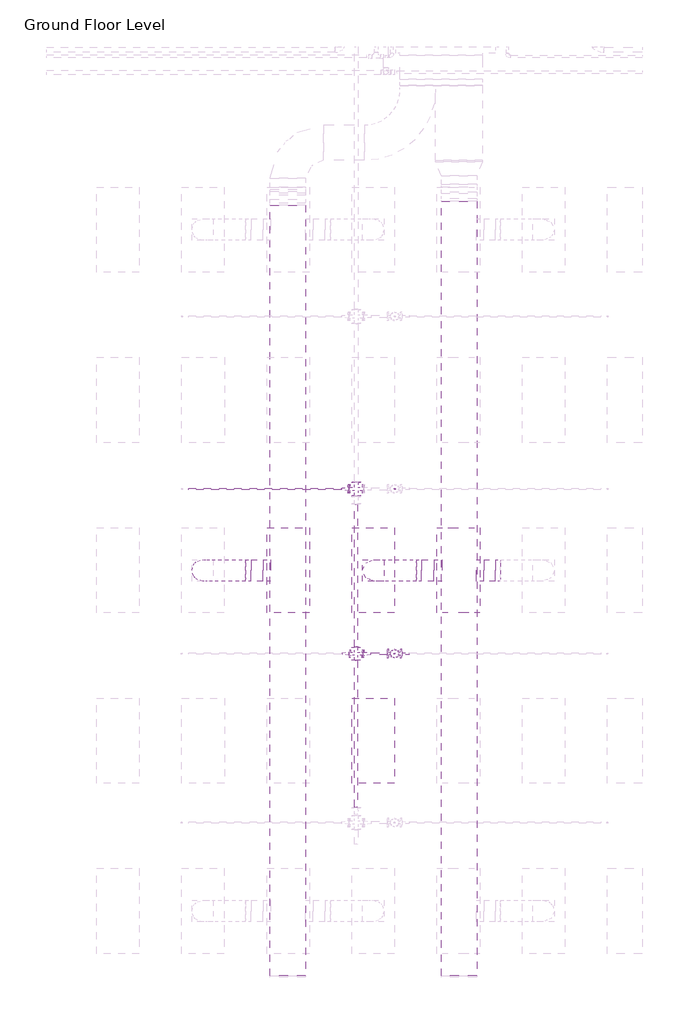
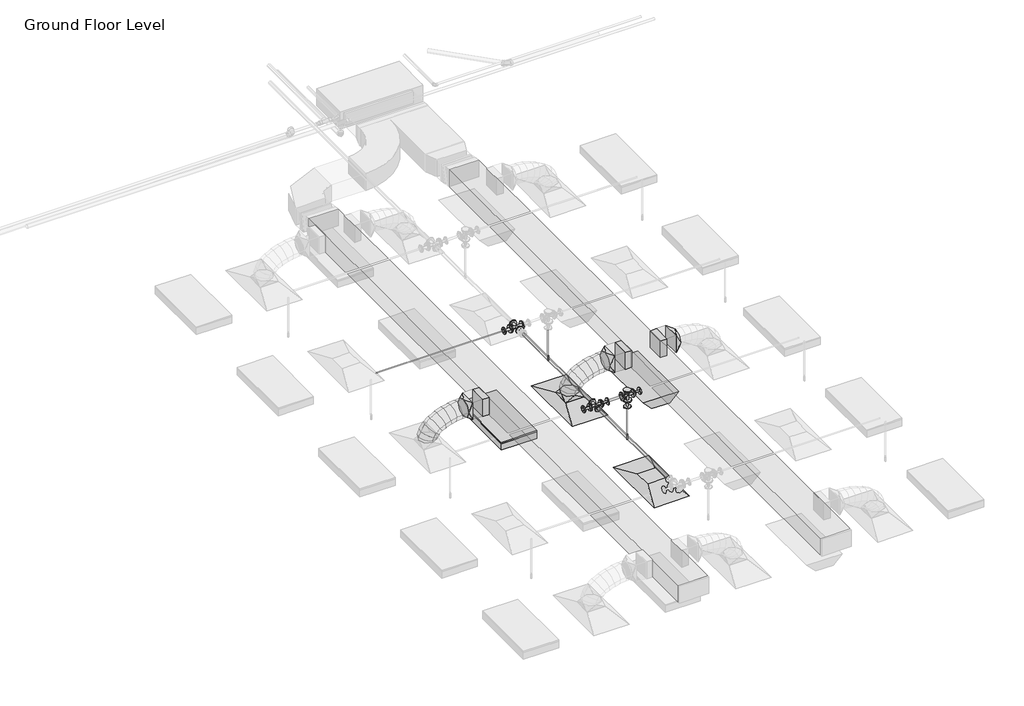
# One storey, part 45 of 68: 8 pipe fittings, 7 duct fittings, 7 duct segments, 6 pipe segments, 2 air terminals, 2 fire suppression terminals, 2 light fixtures.
"""IFC4 building model written with IfcOpenShell, lengths in millimetres."""

from ifc_helpers import new_model, si_unit, point, frame, frame_2d, origin, place, context, project, spatial, polyline, circle_curve, ellipse_curve, trimmed, segment, composite_curve, outline, extrude, transform, mapped, element, save
from ifc_brep_helpers import plane_surface, cylinder_surface, advanced_brep
from components import m_return_diffuser_1200x600_1200_x_600_face_300_x_300_d1983ef6, m_rectangular_takeoff_standard_cb0ccb98, m_rectangular_takeoff_standard_2be5eba1, m_rectangular_to_round_transition_angle_45_degree_641efff0, m_sprinkler_dry_pendent_hosted_15_mm_dry_pendent_9bda8e11, m_emergency_recessed_lighting_fixture_600x1200_277_5b10b25d, m_troffer_light_parabolic_rectangular1_0600x1200mm_4_lamp_86473d4a, m_cross_flanged_cs_class_150_standard_fc817054, m_cross_flanged_cs_class_150_standard_46ec961b, m_reducer_flanged_cs_class_150_standard_b6b67c23, m_reducer_flanged_cs_class_150_standard_ccf252ad, m_reducer_flanged_cs_class_150_standard_d42b2106, m_reducer_flanged_cs_class_150_standard_cc2a7c1d, m_reducer_flanged_cs_class_150_standard_83138b42, m_tee_round_base_flanged_cs_class_150_standard_7e5987a1

model = new_model("IFC4")

# Units and contexts
model_context = context("Model", 3, world=origin())
ifc_project = project(units=[si_unit("LENGTHUNIT", "METRE", prefix="MILLI")], contexts=[model_context])

# Site, building, storey
site = spatial("IfcSite", under=ifc_project)
building = spatial("IfcBuilding", under=site)
storey = spatial("IfcBuildingStorey", under=building, Name="Ground Floor Level", Elevation=900.0)

# Air terminals
placement = place(None, origin())
m_return_diffuser_1200x600_1200_x_600_face_300_x_300_shape = m_return_diffuser_1200x600_1200_x_600_face_300_x_300_d1983ef6(model_context)
element("IfcAirTerminal", 1, ObjectType="M_Return Diffuser 1200x600 : 1200 x 600 Face 300 x 300 Connection", at=placement, inside=storey, context=model_context, shape_type="MappedRepresentation", body=[
    mapped(m_return_diffuser_1200x600_1200_x_600_face_300_x_300_shape, transform((-5737.2327605, 4035.2153534, 3650.0), x_axis=(0.0, 1.0, 0.0), y_axis=(-1.0, 0.0, 0.0), z_axis=(0.0, 0.0, 1.0))),
])
element("IfcAirTerminal", 2, ObjectType="M_Supply Diffuser 1200x600 : 1200 x 600 Face 300 x 300 Connection", at=placement, inside=storey, context=model_context, shape_type="MappedRepresentation", body=[
    mapped(m_return_diffuser_1200x600_1200_x_600_face_300_x_300_shape, transform((-5737.2327605, 6435.2153534, 3650.0), x_axis=(0.0, 1.0, 0.0), y_axis=(-1.0, 0.0, 0.0), z_axis=(0.0, 0.0, 1.0))),
])

# Duct fittings
m_rectangular_takeoff_standard_shape = m_rectangular_takeoff_standard_cb0ccb98(model_context)
element("IfcDuctFitting", 3, ObjectType="M_Rectangular Takeoff : Standard", at=placement, inside=storey, context=model_context, shape_type="MappedRepresentation", body=[
    mapped(m_rectangular_takeoff_standard_shape, transform((-4278.6910789, 6435.2153534, 4150.0), x_axis=(1.0, 0.0, 0.0), y_axis=(0.0, -1.0, 0.0), z_axis=(0.0, 0.0, -1.0))),
])
m_rectangular_takeoff_standard_2_shape = m_rectangular_takeoff_standard_2be5eba1(model_context)
element("IfcDuctFitting", 4, ObjectType="M_Rectangular Takeoff : Standard", at=placement, inside=storey, context=model_context, shape_type="MappedRepresentation", body=[
    mapped(m_rectangular_takeoff_standard_2_shape, transform((-7189.6910789, 6435.2153534, 4150.0), x_axis=(-1.0, 0.0, 0.0), y_axis=(0.0, 1.0, 0.0), z_axis=(0.0, 0.0, -1.0))),
])
element("IfcDuctFitting", 5, ObjectType="M_Rectangular Takeoff : Standard", at=placement, inside=storey, context=model_context, shape_type="MappedRepresentation", body=[
    mapped(m_rectangular_takeoff_standard_2_shape, transform((-4778.6910789, 6435.2153534, 4150.0), x_axis=(-1.0, 0.0, 0.0), y_axis=(0.0, 1.0, 0.0), z_axis=(0.0, 0.0, -1.0))),
])
m_rectangular_to_round_transition_angle_45_degree_shape = m_rectangular_to_round_transition_angle_45_degree_641efff0(model_context)
element("IfcDuctFitting", 6, ObjectType="M_Rectangular to Round Transition - Angle : 45 Degree", at=placement, inside=storey, context=model_context, shape_type="MappedRepresentation", body=[
    mapped(m_rectangular_to_round_transition_angle_45_degree_shape, transform((-4018.6539738, 6435.2153534, 4150.0), x_axis=(1.0, 0.0, 0.0), y_axis=(0.0, 1.0, 0.0), z_axis=(0.0, 0.0, 1.0))),
])
element("IfcDuctFitting", 7, ObjectType="M_Rectangular to Round Transition - Angle : 45 Degree", at=placement, inside=storey, context=model_context, shape_type="MappedRepresentation", body=[
    mapped(m_rectangular_to_round_transition_angle_45_degree_shape, transform((-5737.2327605, 6435.2153534, 3751.6), x_axis=(0.0, 0.0, 1.0), y_axis=(-1.0, 0.0, 0.0), z_axis=(0.0, -1.0, 0.0))),
])
element("IfcDuctFitting", 8, ObjectType="M_Rectangular to Round Transition - Angle : 45 Degree", at=placement, inside=storey, context=model_context, shape_type="MappedRepresentation", body=[
    mapped(m_rectangular_to_round_transition_angle_45_degree_shape, transform((-5055.8115473, 6435.2153534, 4150.0), x_axis=(-1.0, 0.0, 0.0), y_axis=(0.0, -1.0, 0.0), z_axis=(0.0, 0.0, 1.0))),
])
element("IfcDuctFitting", 9, ObjectType="M_Rectangular to Round Transition - Angle : 45 Degree", at=placement, inside=storey, context=model_context, shape_type="MappedRepresentation", body=[
    mapped(m_rectangular_to_round_transition_angle_45_degree_shape, transform((-7461.2487616, 6435.2153534, 4150.0), x_axis=(-1.0, 0.0, 0.0), y_axis=(0.0, -1.0, 0.0), z_axis=(0.0, 0.0, 1.0))),
])

# Duct segments
element("IfcDuctSegment", 10, ObjectType="Flex - Round", at=placement, inside=storey, context=model_context, shape_type="AdvancedBrep", body=[
    advanced_brep(
    [(-5587.2327605, 6435.2153534, 3826.6), (-5737.2327605, 6285.2153534, 3826.6), (-5887.2327605, 6435.2153534, 3826.6), (-5737.2327605, 6585.2153534, 3826.6), (-5587.2327605, 6435.2153534, 3832.4836764), (-5737.2327605, 6285.2153534, 3857.3046173), (-5887.2327605, 6435.2153534, 3882.1255581), (-5737.2327605, 6585.2153534, 3857.3046173), (-5585.103404, 6435.2153534, 3838.7416543), (-5720.5718108, 6285.2153534, 3906.2695763), (-5856.0402176, 6435.2153534, 3973.7974983), (-5720.5718108, 6585.2153534, 3906.2695763), (-5563.0819031, 6435.2153534, 3871.1466478), (-5674.6950292, 6285.2153534, 3973.7779999), (-5786.3081553, 6435.2153534, 4076.409352), (-5674.6950292, 6585.2153534, 3973.7779999), (-5523.1404393, 6435.2153534, 3903.4907359), (-5605.7615172, 6285.2153534, 4029.599479), (-5688.382595, 6435.2153534, 4155.7082221), (-5605.7615172, 6585.2153534, 4029.599479), (-5460.2203199, 6435.2153534, 3936.1920073), (-5519.930376, 6285.2153534, 4074.2082221), (-5579.6404321, 6435.2153534, 4212.2244369), (-5519.930376, 6585.2153534, 4074.2082221), (-5381.3704755, 6435.2153534, 3963.847287), (-5423.360707, 6285.2153534, 4108.0784374), (-5465.3509386, 6435.2153534, 4252.3095878), (-5423.360707, 6585.2153534, 4108.0784374), (-5294.8012537, 6435.2153534, 3984.0505724), (-5322.2116117, 6285.2153534, 4131.6843333), (-5349.6219697, 6435.2153534, 4279.3180942), (-5322.2116117, 6585.2153534, 4131.6843333), (-5208.3198115, 6435.2153534, 3996.0503308), (-5222.6421913, 6285.2153534, 4145.500118), (-5236.9645711, 6435.2153534, 4294.9499053), (-5222.6421913, 6585.2153534, 4145.500118), (-5134.1613712, 6435.2153534, 4000.0), (-5138.1530331, 6285.2153534, 4150.0), (-5142.144695, 6435.2153534, 4300.0), (-5138.1530331, 6585.2153534, 4150.0), (-5130.8115473, 6435.2153534, 4000.0), (-5130.8115473, 6585.2153534, 4150.0), (-5130.8115473, 6435.2153534, 4300.0), (-5130.8115473, 6285.2153534, 4150.0)],
    [
        (0, 1, circle_curve(frame((-5737.2327605, 6435.2153534, 3826.6), z_axis=(0.0, 0.0, -1.0), x_axis=(1.0, 0.0, 0.0)), 150.0)),
        (1, 2, circle_curve(frame((-5737.2327605, 6435.2153534, 3826.6), z_axis=(0.0, 0.0, -1.0), x_axis=(1.0, 0.0, 0.0)), 150.0)),
        (2, 3, circle_curve(frame((-5737.2327605, 6435.2153534, 3826.6), z_axis=(0.0, 0.0, -1.0), x_axis=(1.0, 0.0, 0.0)), 150.0)),
        (3, 0, circle_curve(frame((-5737.2327605, 6435.2153534, 3826.6), z_axis=(0.0, 0.0, -1.0), x_axis=(1.0, 0.0, 0.0)), 150.0)),
        (0, 4),
        (4, 5, ellipse_curve(frame((-5737.2327605, 6435.2153534, 3857.3046173), z_axis=(-0.16325299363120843, 0.0, -0.9865842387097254), x_axis=(0.9865842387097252, 0.0, -0.16325299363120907)), 152.0397287, 150.0)),
        (5, 1),
        (5, 6, ellipse_curve(frame((-5737.2327605, 6435.2153534, 3857.3046173), z_axis=(-0.16325299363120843, 0.0, -0.9865842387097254), x_axis=(0.9865842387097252, 0.0, -0.16325299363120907)), 152.0397287, 150.0)),
        (6, 2),
        (6, 7, ellipse_curve(frame((-5737.2327605, 6435.2153534, 3857.3046173), z_axis=(-0.16325299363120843, 0.0, -0.9865842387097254), x_axis=(0.9865842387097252, 0.0, -0.16325299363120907)), 152.0397287, 150.0)),
        (7, 3),
        (7, 4, ellipse_curve(frame((-5737.2327605, 6435.2153534, 3857.3046173), z_axis=(-0.16325299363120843, 0.0, -0.9865842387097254), x_axis=(0.9865842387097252, 0.0, -0.16325299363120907)), 152.0397287, 150.0)),
        (4, 8),
        (8, 9, ellipse_curve(frame((-5720.5718108, 6435.2153534, 3906.2695763), z_axis=(-0.4461230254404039, 0.0, -0.894971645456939), x_axis=(0.8949716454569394, 0.0, -0.44612302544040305)), 151.3661438, 150.0)),
        (9, 5),
        (9, 10, ellipse_curve(frame((-5720.5718108, 6435.2153534, 3906.2695763), z_axis=(-0.4461230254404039, 0.0, -0.894971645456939), x_axis=(0.8949716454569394, 0.0, -0.44612302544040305)), 151.3661438, 150.0)),
        (10, 6),
        (10, 11, ellipse_curve(frame((-5720.5718108, 6435.2153534, 3906.2695763), z_axis=(-0.4461230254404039, 0.0, -0.894971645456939), x_axis=(0.8949716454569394, 0.0, -0.44612302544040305)), 151.3661438, 150.0)),
        (11, 7),
        (11, 8, ellipse_curve(frame((-5720.5718108, 6435.2153534, 3906.2695763), z_axis=(-0.4461230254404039, 0.0, -0.894971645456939), x_axis=(0.8949716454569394, 0.0, -0.44612302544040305)), 151.3661438, 150.0)),
        (8, 12),
        (12, 13, ellipse_curve(frame((-5674.6950292, 6435.2153534, 3973.7779999), z_axis=(-0.6768681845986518, 0.0, -0.7361042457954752), x_axis=(0.7361042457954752, 0.0, -0.6768681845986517)), 151.626793, 150.0)),
        (13, 9),
        (13, 14, ellipse_curve(frame((-5674.6950292, 6435.2153534, 3973.7779999), z_axis=(-0.6768681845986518, 0.0, -0.7361042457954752), x_axis=(0.7361042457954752, 0.0, -0.6768681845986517)), 151.626793, 150.0)),
        (14, 10),
        (14, 15, ellipse_curve(frame((-5674.6950292, 6435.2153534, 3973.7779999), z_axis=(-0.6768681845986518, 0.0, -0.7361042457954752), x_axis=(0.7361042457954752, 0.0, -0.6768681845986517)), 151.626793, 150.0)),
        (15, 11),
        (15, 12, ellipse_curve(frame((-5674.6950292, 6435.2153534, 3973.7779999), z_axis=(-0.6768681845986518, 0.0, -0.7361042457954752), x_axis=(0.7361042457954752, 0.0, -0.6768681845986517)), 151.626793, 150.0)),
        (12, 16),
        (16, 17, ellipse_curve(frame((-5605.7615172, 6435.2153534, 4029.599479), z_axis=(-0.8364668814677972, 0.0, -0.5480174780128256), x_axis=(0.5480174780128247, 0.0, -0.8364668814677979)), 150.7635818, 150.0)),
        (17, 13),
        (17, 18, ellipse_curve(frame((-5605.7615172, 6435.2153534, 4029.599479), z_axis=(-0.8364668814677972, 0.0, -0.5480174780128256), x_axis=(0.5480174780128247, 0.0, -0.8364668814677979)), 150.7635818, 150.0)),
        (18, 14),
        (18, 19, ellipse_curve(frame((-5605.7615172, 6435.2153534, 4029.599479), z_axis=(-0.8364668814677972, 0.0, -0.5480174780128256), x_axis=(0.5480174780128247, 0.0, -0.8364668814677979)), 150.7635818, 150.0)),
        (19, 15),
        (19, 16, ellipse_curve(frame((-5605.7615172, 6435.2153534, 4029.599479), z_axis=(-0.8364668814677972, 0.0, -0.5480174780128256), x_axis=(0.5480174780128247, 0.0, -0.8364668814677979)), 150.7635818, 150.0)),
        (16, 20),
        (20, 21, ellipse_curve(frame((-5519.930376, 6435.2153534, 4074.2082221), z_axis=(-0.917790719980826, 0.0, -0.3970644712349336), x_axis=(0.3970644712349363, 0.0, -0.9177907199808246)), 150.378743, 150.0)),
        (21, 17),
        (21, 22, ellipse_curve(frame((-5519.930376, 6435.2153534, 4074.2082221), z_axis=(-0.917790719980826, 0.0, -0.3970644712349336), x_axis=(0.3970644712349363, 0.0, -0.9177907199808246)), 150.378743, 150.0)),
        (22, 18),
        (22, 23, ellipse_curve(frame((-5519.930376, 6435.2153534, 4074.2082221), z_axis=(-0.917790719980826, 0.0, -0.3970644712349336), x_axis=(0.3970644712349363, 0.0, -0.9177907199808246)), 150.378743, 150.0)),
        (23, 19),
        (23, 20, ellipse_curve(frame((-5519.930376, 6435.2153534, 4074.2082221), z_axis=(-0.917790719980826, 0.0, -0.3970644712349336), x_axis=(0.3970644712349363, 0.0, -0.9177907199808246)), 150.378743, 150.0)),
        (20, 24),
        (24, 25, ellipse_curve(frame((-5423.360707, 6435.2153534, 4108.0784374), z_axis=(-0.9601380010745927, 0.0, -0.2795264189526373), x_axis=(0.279526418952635, 0.0, -0.9601380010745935)), 150.2191875, 150.0)),
        (25, 21),
        (25, 26, ellipse_curve(frame((-5423.360707, 6435.2153534, 4108.0784374), z_axis=(-0.9601380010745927, 0.0, -0.2795264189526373), x_axis=(0.279526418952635, 0.0, -0.9601380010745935)), 150.2191875, 150.0)),
        (26, 22),
        (26, 27, ellipse_curve(frame((-5423.360707, 6435.2153534, 4108.0784374), z_axis=(-0.9601380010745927, 0.0, -0.2795264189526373), x_axis=(0.279526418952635, 0.0, -0.9601380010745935)), 150.2191875, 150.0)),
        (27, 23),
        (27, 24, ellipse_curve(frame((-5423.360707, 6435.2153534, 4108.0784374), z_axis=(-0.9601380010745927, 0.0, -0.2795264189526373), x_axis=(0.279526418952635, 0.0, -0.9601380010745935)), 150.2191875, 150.0)),
        (24, 28),
        (28, 29, ellipse_curve(frame((-5322.2116117, 6435.2153534, 4131.6843333), z_axis=(-0.9831975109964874, 0.0, -0.1825449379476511), x_axis=(0.1825449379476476, 0.0, -0.9831975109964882)), 150.1567684, 150.0)),
        (29, 25),
        (29, 30, ellipse_curve(frame((-5322.2116117, 6435.2153534, 4131.6843333), z_axis=(-0.9831975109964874, 0.0, -0.1825449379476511), x_axis=(0.1825449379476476, 0.0, -0.9831975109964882)), 150.1567684, 150.0)),
        (30, 26),
        (30, 31, ellipse_curve(frame((-5322.2116117, 6435.2153534, 4131.6843333), z_axis=(-0.9831975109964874, 0.0, -0.1825449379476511), x_axis=(0.1825449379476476, 0.0, -0.9831975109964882)), 150.1567684, 150.0)),
        (31, 27),
        (31, 28, ellipse_curve(frame((-5322.2116117, 6435.2153534, 4131.6843333), z_axis=(-0.9831975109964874, 0.0, -0.1825449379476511), x_axis=(0.1825449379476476, 0.0, -0.9831975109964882)), 150.1567684, 150.0)),
        (28, 32),
        (32, 33, ellipse_curve(frame((-5222.6421913, 6435.2153534, 4145.500118), z_axis=(-0.99543930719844, 0.0, -0.09539698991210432), x_axis=(0.09539698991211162, 0.0, -0.9954393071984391)), 150.1345046, 150.0)),
        (33, 29),
        (33, 34, ellipse_curve(frame((-5222.6421913, 6435.2153534, 4145.500118), z_axis=(-0.99543930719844, 0.0, -0.09539698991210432), x_axis=(0.09539698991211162, 0.0, -0.9954393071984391)), 150.1345046, 150.0)),
        (34, 30),
        (34, 35, ellipse_curve(frame((-5222.6421913, 6435.2153534, 4145.500118), z_axis=(-0.99543930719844, 0.0, -0.09539698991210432), x_axis=(0.09539698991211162, 0.0, -0.9954393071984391)), 150.1345046, 150.0)),
        (35, 31),
        (35, 32, ellipse_curve(frame((-5222.6421913, 6435.2153534, 4145.500118), z_axis=(-0.99543930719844, 0.0, -0.09539698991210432), x_axis=(0.09539698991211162, 0.0, -0.9954393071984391)), 150.1345046, 150.0)),
        (32, 36),
        (36, 37, ellipse_curve(frame((-5138.1530331, 6435.2153534, 4150.0), z_axis=(-0.9996461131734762, 0.0, -0.026601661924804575), x_axis=(0.026601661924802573, 0.0, -0.9996461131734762)), 150.0531018, 150.0)),
        (37, 33),
        (37, 38, ellipse_curve(frame((-5138.1530331, 6435.2153534, 4150.0), z_axis=(-0.9996461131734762, 0.0, -0.026601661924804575), x_axis=(0.026601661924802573, 0.0, -0.9996461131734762)), 150.0531018, 150.0)),
        (38, 34),
        (38, 39, ellipse_curve(frame((-5138.1530331, 6435.2153534, 4150.0), z_axis=(-0.9996461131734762, 0.0, -0.026601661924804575), x_axis=(0.026601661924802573, 0.0, -0.9996461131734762)), 150.0531018, 150.0)),
        (39, 35),
        (39, 36, ellipse_curve(frame((-5138.1530331, 6435.2153534, 4150.0), z_axis=(-0.9996461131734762, 0.0, -0.026601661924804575), x_axis=(0.026601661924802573, 0.0, -0.9996461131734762)), 150.0531018, 150.0)),
        (40, 41, circle_curve(frame((-5130.8115473, 6435.2153534, 4150.0), z_axis=(1.0, 0.0, 0.0), x_axis=(0.0, 0.0, -1.0)), 150.0)),
        (41, 42, circle_curve(frame((-5130.8115473, 6435.2153534, 4150.0), z_axis=(1.0, 0.0, 0.0), x_axis=(0.0, 0.0, -1.0)), 150.0)),
        (42, 43, circle_curve(frame((-5130.8115473, 6435.2153534, 4150.0), z_axis=(1.0, 0.0, 0.0), x_axis=(0.0, 0.0, -1.0)), 150.0)),
        (43, 40, circle_curve(frame((-5130.8115473, 6435.2153534, 4150.0), z_axis=(1.0, 0.0, 0.0), x_axis=(0.0, 0.0, -1.0)), 150.0)),
        (36, 40),
        (43, 37),
        (42, 38),
        (41, 39),
    ],
    [
        plane_surface(frame((-5737.2327605, 6285.2153534, 3826.6), z_axis=(0.0, 0.0, -1.0), x_axis=(1.0, 0.0, 0.0))),
        cylinder_surface(frame((-5737.2327605, 6435.2153534, 3826.6), z_axis=(0.0, 0.0, -1.0), x_axis=(1.0, 0.0, 0.0)), 150.0),
        cylinder_surface(frame((-5737.2327605, 6435.2153534, 3857.3046173), z_axis=(-0.3221256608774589, 0.0, -0.9466969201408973), x_axis=(0.9466969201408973, 0.0, -0.3221256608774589)), 150.0),
        cylinder_surface(frame((-5720.5718108, 6435.2153534, 3906.2695763), z_axis=(-0.5620674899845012, 0.0, -0.8270913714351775), x_axis=(0.8270913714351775, 0.0, -0.5620674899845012)), 150.0),
        cylinder_surface(frame((-5674.6950292, 6435.2153534, 3973.7779999), z_axis=(-0.7771447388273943, 0.0, -0.6293219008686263), x_axis=(0.6293219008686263, 0.0, -0.7771447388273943)), 150.0),
        cylinder_surface(frame((-5605.7615172, 6435.2153534, 4029.599479), z_axis=(-0.8873160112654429, 0.0, -0.4611618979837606), x_axis=(0.4611618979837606, 0.0, -0.8873160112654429)), 150.0),
        cylinder_surface(frame((-5519.930376, 6435.2153534, 4074.2082221), z_axis=(-0.9436423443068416, 0.0, -0.3309669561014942), x_axis=(0.3309669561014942, 0.0, -0.9436423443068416)), 150.0),
        cylinder_surface(frame((-5423.360707, 6435.2153534, 4108.0784374), z_axis=(-0.9738317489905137, 0.0, -0.2272701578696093), x_axis=(0.2272701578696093, 0.0, -0.9738317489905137)), 150.0),
        cylinder_surface(frame((-5322.2116117, 6435.2153534, 4131.6843333), z_axis=(-0.9905102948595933, 0.0, -0.13743855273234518), x_axis=(0.13743855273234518, 0.0, -0.9905102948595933)), 150.0),
        cylinder_surface(frame((-5222.6421913, 6435.2153534, 4145.500118), z_axis=(-0.9985847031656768, 0.0, -0.05318449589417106), x_axis=(0.05318449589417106, 0.0, -0.9985847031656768)), 150.0),
        plane_surface(frame((-5130.8115473, 6435.2153534, 4000.0), z_axis=(1.0, 0.0, 0.0), x_axis=(0.0, 1.0, 0.0))),
        cylinder_surface(frame((-5138.1530331, 6435.2153534, 4150.0), z_axis=(-1.0, 0.0, 0.0), x_axis=(0.0, 0.0, -1.0)), 150.0),
    ],
    [
        (0, [[1, 2, 3, 4]]),
        (1, [[-1, 5, 6, 7]]),
        (1, [[-2, -7, 8, 9]]),
        (1, [[-3, -9, 10, 11]]),
        (1, [[-4, -11, 12, -5]]),
        (2, [[-6, 13, 14, 15]]),
        (2, [[-8, -15, 16, 17]]),
        (2, [[-10, -17, 18, 19]]),
        (2, [[-12, -19, 20, -13]]),
        (3, [[-14, 21, 22, 23]]),
        (3, [[-16, -23, 24, 25]]),
        (3, [[-18, -25, 26, 27]]),
        (3, [[-20, -27, 28, -21]]),
        (4, [[-22, 29, 30, 31]]),
        (4, [[-24, -31, 32, 33]]),
        (4, [[-26, -33, 34, 35]]),
        (4, [[-28, -35, 36, -29]]),
        (5, [[-30, 37, 38, 39]]),
        (5, [[-32, -39, 40, 41]]),
        (5, [[-34, -41, 42, 43]]),
        (5, [[-36, -43, 44, -37]]),
        (6, [[-38, 45, 46, 47]]),
        (6, [[-40, -47, 48, 49]]),
        (6, [[-42, -49, 50, 51]]),
        (6, [[-44, -51, 52, -45]]),
        (7, [[-46, 53, 54, 55]]),
        (7, [[-48, -55, 56, 57]]),
        (7, [[-50, -57, 58, 59]]),
        (7, [[-52, -59, 60, -53]]),
        (8, [[-54, 61, 62, 63]]),
        (8, [[-56, -63, 64, 65]]),
        (8, [[-58, -65, 66, 67]]),
        (8, [[-60, -67, 68, -61]]),
        (9, [[-62, 69, 70, 71]]),
        (9, [[-64, -71, 72, 73]]),
        (9, [[-66, -73, 74, 75]]),
        (9, [[-68, -75, 76, -69]]),
        (10, [[77, 78, 79, 80]]),
        (11, [[-70, 81, -80, 82]]),
        (11, [[-72, -82, -79, 83]]),
        (11, [[-74, -83, -78, 84]]),
        (11, [[-76, -84, -77, -81]]),
    ],
),
])
element("IfcDuctSegment", 11, ObjectType="Flex - Round", at=placement, inside=storey, context=model_context, shape_type="AdvancedBrep", body=[
    advanced_brep(
    [(-7992.6846929, 6435.2153534, 3826.6), (-8142.6846929, 6285.2153534, 3826.6), (-8292.6846929, 6435.2153534, 3826.6), (-8142.6846929, 6585.2153534, 3826.6), (-7992.6846929, 6435.2153534, 3832.4838104), (-8142.6846929, 6285.2153534, 3857.3049615), (-8292.6846929, 6435.2153534, 3882.1261126), (-8142.6846929, 6585.2153534, 3857.3049615), (-7990.555208, 6435.2153534, 3838.7421096), (-8126.0232883, 6285.2153534, 3906.2708192), (-8261.4913687, 6435.2153534, 3973.7995287), (-8126.0232883, 6585.2153534, 3906.2708192), (-7968.5331802, 6435.2153534, 3871.1472855), (-8080.1452707, 6285.2153534, 3973.7798261), (-8191.7573612, 6435.2153534, 4076.4123668), (-8080.1452707, 6585.2153534, 3973.7798261), (-7928.5904556, 6435.2153534, 3903.4915826), (-8011.2099341, 6285.2153534, 4029.6013814), (-8093.8294126, 6435.2153534, 4155.7111802), (-8011.2099341, 6585.2153534, 4029.6013814), (-7865.6682729, 6435.2153534, 3936.1928758), (-7925.3765727, 6285.2153534, 4074.2098454), (-7985.0848725, 6435.2153534, 4212.226815), (-7925.3765727, 6585.2153534, 4074.2098454), (-7786.815881, 6435.2153534, 3963.8479616), (-7828.8044806, 6285.2153534, 4108.0795788), (-7870.7930803, 6435.2153534, 4252.311196), (-7828.8044806, 6585.2153534, 4108.0795788), (-7700.2438983, 6435.2153534, 3984.0509494), (-7727.652952, 6285.2153534, 4131.684942), (-7755.0620057, 6435.2153534, 4279.3189347), (-7727.652952, 6585.2153534, 4131.684942), (-7613.759715, 6435.2153534, 3996.0504424), (-7628.081281, 6285.2153534, 4145.5002956), (-7642.4028469, 6435.2153534, 4294.9501488), (-7628.081281, 6585.2153534, 4145.5002956), (-7539.5984134, 6435.2153534, 4000.0), (-7543.5898089, 6285.2153534, 4150.0), (-7547.5812043, 6435.2153534, 4300.0), (-7543.5898089, 6585.2153534, 4150.0), (-7536.2487616, 6435.2153534, 4000.0), (-7536.2487616, 6585.2153534, 4150.0), (-7536.2487616, 6435.2153534, 4300.0), (-7536.2487616, 6285.2153534, 4150.0)],
    [
        (0, 1, circle_curve(frame((-8142.6846929, 6435.2153534, 3826.6), z_axis=(0.0, 0.0, -1.0), x_axis=(1.0, 0.0, 0.0)), 150.0)),
        (1, 2, circle_curve(frame((-8142.6846929, 6435.2153534, 3826.6), z_axis=(0.0, 0.0, -1.0), x_axis=(1.0, 0.0, 0.0)), 150.0)),
        (2, 3, circle_curve(frame((-8142.6846929, 6435.2153534, 3826.6), z_axis=(0.0, 0.0, -1.0), x_axis=(1.0, 0.0, 0.0)), 150.0)),
        (3, 0, circle_curve(frame((-8142.6846929, 6435.2153534, 3826.6), z_axis=(0.0, 0.0, -1.0), x_axis=(1.0, 0.0, 0.0)), 150.0)),
        (0, 4),
        (4, 5, ellipse_curve(frame((-8142.6846929, 6435.2153534, 3857.3049615), z_axis=(-0.1632543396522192, 0.0, -0.9865840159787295), x_axis=(0.9865840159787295, 0.0, -0.16325433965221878)), 152.039763, 150.0)),
        (5, 1),
        (5, 6, ellipse_curve(frame((-8142.6846929, 6435.2153534, 3857.3049615), z_axis=(-0.1632543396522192, 0.0, -0.9865840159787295), x_axis=(0.9865840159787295, 0.0, -0.16325433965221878)), 152.039763, 150.0)),
        (6, 2),
        (6, 7, ellipse_curve(frame((-8142.6846929, 6435.2153534, 3857.3049615), z_axis=(-0.1632543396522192, 0.0, -0.9865840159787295), x_axis=(0.9865840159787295, 0.0, -0.16325433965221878)), 152.039763, 150.0)),
        (7, 3),
        (7, 4, ellipse_curve(frame((-8142.6846929, 6435.2153534, 3857.3049615), z_axis=(-0.1632543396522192, 0.0, -0.9865840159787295), x_axis=(0.9865840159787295, 0.0, -0.16325433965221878)), 152.039763, 150.0)),
        (4, 8),
        (8, 9, ellipse_curve(frame((-8126.0232883, 6435.2153534, 3906.2708192), z_axis=(-0.44612805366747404, 0.0, -0.8949691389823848), x_axis=(0.8949691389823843, 0.0, -0.44612805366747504)), 151.366203, 150.0)),
        (9, 5),
        (9, 10, ellipse_curve(frame((-8126.0232883, 6435.2153534, 3906.2708192), z_axis=(-0.44612805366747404, 0.0, -0.8949691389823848), x_axis=(0.8949691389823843, 0.0, -0.44612805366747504)), 151.366203, 150.0)),
        (10, 6),
        (10, 11, ellipse_curve(frame((-8126.0232883, 6435.2153534, 3906.2708192), z_axis=(-0.44612805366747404, 0.0, -0.8949691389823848), x_axis=(0.8949691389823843, 0.0, -0.44612805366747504)), 151.366203, 150.0)),
        (11, 7),
        (11, 8, ellipse_curve(frame((-8126.0232883, 6435.2153534, 3906.2708192), z_axis=(-0.44612805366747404, 0.0, -0.8949691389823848), x_axis=(0.8949691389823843, 0.0, -0.44612805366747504)), 151.366203, 150.0)),
        (8, 12),
        (12, 13, ellipse_curve(frame((-8080.1452707, 6435.2153534, 3973.7798261), z_axis=(-0.6768758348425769, 0.0, -0.7360972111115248), x_axis=(0.7360972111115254, 0.0, -0.6768758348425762)), 151.6268352, 150.0)),
        (13, 9),
        (13, 14, ellipse_curve(frame((-8080.1452707, 6435.2153534, 3973.7798261), z_axis=(-0.6768758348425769, 0.0, -0.7360972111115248), x_axis=(0.7360972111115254, 0.0, -0.6768758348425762)), 151.6268352, 150.0)),
        (14, 10),
        (14, 15, ellipse_curve(frame((-8080.1452707, 6435.2153534, 3973.7798261), z_axis=(-0.6768758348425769, 0.0, -0.7360972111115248), x_axis=(0.7360972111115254, 0.0, -0.6768758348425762)), 151.6268352, 150.0)),
        (15, 11),
        (15, 12, ellipse_curve(frame((-8080.1452707, 6435.2153534, 3973.7798261), z_axis=(-0.6768758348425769, 0.0, -0.7360972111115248), x_axis=(0.7360972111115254, 0.0, -0.6768758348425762)), 151.6268352, 150.0)),
        (12, 16),
        (16, 17, ellipse_curve(frame((-8011.2099341, 6435.2153534, 4029.6013814), z_axis=(-0.8364738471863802, 0.0, -0.5480068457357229), x_axis=(0.5480068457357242, 0.0, -0.8364738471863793)), 150.7635884, 150.0)),
        (17, 13),
        (17, 18, ellipse_curve(frame((-8011.2099341, 6435.2153534, 4029.6013814), z_axis=(-0.8364738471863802, 0.0, -0.5480068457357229), x_axis=(0.5480068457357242, 0.0, -0.8364738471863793)), 150.7635884, 150.0)),
        (18, 14),
        (18, 19, ellipse_curve(frame((-8011.2099341, 6435.2153534, 4029.6013814), z_axis=(-0.8364738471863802, 0.0, -0.5480068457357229), x_axis=(0.5480068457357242, 0.0, -0.8364738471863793)), 150.7635884, 150.0)),
        (19, 15),
        (19, 16, ellipse_curve(frame((-8011.2099341, 6435.2153534, 4029.6013814), z_axis=(-0.8364738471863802, 0.0, -0.5480068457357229), x_axis=(0.5480068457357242, 0.0, -0.8364738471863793)), 150.7635884, 150.0)),
        (16, 20),
        (20, 21, ellipse_curve(frame((-7925.3765727, 6435.2153534, 4074.2098454), z_axis=(-0.9177957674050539, 0.0, -0.39705280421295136), x_axis=(0.39705280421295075, 0.0, -0.9177957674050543)), 150.3787384, 150.0)),
        (21, 17),
        (21, 22, ellipse_curve(frame((-7925.3765727, 6435.2153534, 4074.2098454), z_axis=(-0.9177957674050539, 0.0, -0.39705280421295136), x_axis=(0.39705280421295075, 0.0, -0.9177957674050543)), 150.3787384, 150.0)),
        (22, 18),
        (22, 23, ellipse_curve(frame((-7925.3765727, 6435.2153534, 4074.2098454), z_axis=(-0.9177957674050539, 0.0, -0.39705280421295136), x_axis=(0.39705280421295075, 0.0, -0.9177957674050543)), 150.3787384, 150.0)),
        (23, 19),
        (23, 20, ellipse_curve(frame((-7925.3765727, 6435.2153534, 4074.2098454), z_axis=(-0.9177957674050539, 0.0, -0.39705280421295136), x_axis=(0.39705280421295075, 0.0, -0.9177957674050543)), 150.3787384, 150.0)),
        (20, 24),
        (24, 25, ellipse_curve(frame((-7828.8044806, 6435.2153534, 4108.0795788), z_axis=(-0.9601411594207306, 0.0, -0.2795155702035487), x_axis=(0.27951557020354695, 0.0, -0.9601411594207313)), 150.2191795, 150.0)),
        (25, 21),
        (25, 26, ellipse_curve(frame((-7828.8044806, 6435.2153534, 4108.0795788), z_axis=(-0.9601411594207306, 0.0, -0.2795155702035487), x_axis=(0.27951557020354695, 0.0, -0.9601411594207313)), 150.2191795, 150.0)),
        (26, 22),
        (26, 27, ellipse_curve(frame((-7828.8044806, 6435.2153534, 4108.0795788), z_axis=(-0.9601411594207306, 0.0, -0.2795155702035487), x_axis=(0.27951557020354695, 0.0, -0.9601411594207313)), 150.2191795, 150.0)),
        (27, 23),
        (27, 24, ellipse_curve(frame((-7828.8044806, 6435.2153534, 4108.0795788), z_axis=(-0.9601411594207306, 0.0, -0.2795155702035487), x_axis=(0.27951557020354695, 0.0, -0.9601411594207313)), 150.2191795, 150.0)),
        (24, 28),
        (28, 29, ellipse_curve(frame((-7727.652952, 6435.2153534, 4131.684942), z_axis=(-0.9831991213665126, 0.0, -0.1825362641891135), x_axis=(0.1825362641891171, 0.0, -0.9831991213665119)), 150.1567581, 150.0)),
        (29, 25),
        (29, 30, ellipse_curve(frame((-7727.652952, 6435.2153534, 4131.684942), z_axis=(-0.9831991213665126, 0.0, -0.1825362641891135), x_axis=(0.1825362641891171, 0.0, -0.9831991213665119)), 150.1567581, 150.0)),
        (30, 26),
        (30, 31, ellipse_curve(frame((-7727.652952, 6435.2153534, 4131.684942), z_axis=(-0.9831991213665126, 0.0, -0.1825362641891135), x_axis=(0.1825362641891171, 0.0, -0.9831991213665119)), 150.1567581, 150.0)),
        (31, 27),
        (31, 28, ellipse_curve(frame((-7727.652952, 6435.2153534, 4131.684942), z_axis=(-0.9831991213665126, 0.0, -0.1825362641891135), x_axis=(0.1825362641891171, 0.0, -0.9831991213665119)), 150.1567581, 150.0)),
        (28, 32),
        (32, 33, ellipse_curve(frame((-7628.081281, 6435.2153534, 4145.5002956), z_axis=(-0.9954398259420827, 0.0, -0.09539157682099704), x_axis=(0.09539157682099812, 0.0, -0.9954398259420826)), 150.1344926, 150.0)),
        (33, 29),
        (33, 34, ellipse_curve(frame((-7628.081281, 6435.2153534, 4145.5002956), z_axis=(-0.9954398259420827, 0.0, -0.09539157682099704), x_axis=(0.09539157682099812, 0.0, -0.9954398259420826)), 150.1344926, 150.0)),
        (34, 30),
        (34, 35, ellipse_curve(frame((-7628.081281, 6435.2153534, 4145.5002956), z_axis=(-0.9954398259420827, 0.0, -0.09539157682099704), x_axis=(0.09539157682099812, 0.0, -0.9954398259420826)), 150.1344926, 150.0)),
        (35, 31),
        (35, 32, ellipse_curve(frame((-7628.081281, 6435.2153534, 4145.5002956), z_axis=(-0.9954398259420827, 0.0, -0.09539157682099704), x_axis=(0.09539157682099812, 0.0, -0.9954398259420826)), 150.1344926, 150.0)),
        (32, 36),
        (36, 37, ellipse_curve(frame((-7543.5898089, 6435.2153534, 4150.0), z_axis=(-0.9996461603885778, 0.0, -0.026599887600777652), x_axis=(0.026599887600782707, 0.0, -0.9996461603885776)), 150.0530947, 150.0)),
        (37, 33),
        (37, 38, ellipse_curve(frame((-7543.5898089, 6435.2153534, 4150.0), z_axis=(-0.9996461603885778, 0.0, -0.026599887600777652), x_axis=(0.026599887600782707, 0.0, -0.9996461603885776)), 150.0530947, 150.0)),
        (38, 34),
        (38, 39, ellipse_curve(frame((-7543.5898089, 6435.2153534, 4150.0), z_axis=(-0.9996461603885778, 0.0, -0.026599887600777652), x_axis=(0.026599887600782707, 0.0, -0.9996461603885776)), 150.0530947, 150.0)),
        (39, 35),
        (39, 36, ellipse_curve(frame((-7543.5898089, 6435.2153534, 4150.0), z_axis=(-0.9996461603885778, 0.0, -0.026599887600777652), x_axis=(0.026599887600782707, 0.0, -0.9996461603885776)), 150.0530947, 150.0)),
        (40, 41, circle_curve(frame((-7536.2487616, 6435.2153534, 4150.0), z_axis=(1.0, 0.0, 0.0), x_axis=(0.0, 0.0, -1.0)), 150.0)),
        (41, 42, circle_curve(frame((-7536.2487616, 6435.2153534, 4150.0), z_axis=(1.0, 0.0, 0.0), x_axis=(0.0, 0.0, -1.0)), 150.0)),
        (42, 43, circle_curve(frame((-7536.2487616, 6435.2153534, 4150.0), z_axis=(1.0, 0.0, 0.0), x_axis=(0.0, 0.0, -1.0)), 150.0)),
        (43, 40, circle_curve(frame((-7536.2487616, 6435.2153534, 4150.0), z_axis=(1.0, 0.0, 0.0), x_axis=(0.0, 0.0, -1.0)), 150.0)),
        (36, 40),
        (43, 37),
        (42, 38),
        (41, 39),
    ],
    [
        plane_surface(frame((-8142.6846929, 6285.2153534, 3826.6), z_axis=(0.0, 0.0, -1.0), x_axis=(1.0, 0.0, 0.0))),
        cylinder_surface(frame((-8142.6846929, 6435.2153534, 3826.6), z_axis=(0.0, 0.0, -1.0), x_axis=(1.0, 0.0, 0.0)), 150.0),
        cylinder_surface(frame((-8142.6846929, 6435.2153534, 3857.3049615), z_axis=(-0.32212824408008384, 0.0, -0.9466960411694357), x_axis=(0.9466960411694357, 0.0, -0.32212824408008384)), 150.0),
        cylinder_surface(frame((-8126.0232883, 6435.2153534, 3906.2708192), z_axis=(-0.5620745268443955, 0.0, -0.8270865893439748), x_axis=(0.8270865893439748, 0.0, -0.5620745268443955)), 150.0),
        cylinder_surface(frame((-8080.1452707, 6435.2153534, 3973.7798261), z_axis=(-0.777152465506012, 0.0, -0.6293123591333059), x_axis=(0.6293123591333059, 0.0, -0.777152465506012)), 150.0),
        cylinder_surface(frame((-8011.2099341, 6435.2153534, 4029.6013814), z_axis=(-0.887322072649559, 0.0, -0.4611502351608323), x_axis=(0.4611502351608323, 0.0, -0.887322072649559)), 150.0),
        cylinder_surface(frame((-7925.3765727, 6435.2153534, 4074.2098454), z_axis=(-0.9436464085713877, 0.0, -0.3309553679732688), x_axis=(0.3309553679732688, 0.0, -0.9436464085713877)), 150.0),
        cylinder_surface(frame((-7828.8044806, 6435.2153534, 4108.0795788), z_axis=(-0.9738340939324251, 0.0, -0.22726010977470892), x_axis=(0.22726010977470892, 0.0, -0.9738340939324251)), 150.0),
        cylinder_surface(frame((-7727.652952, 6435.2153534, 4131.684942), z_axis=(-0.9905113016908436, 0.0, -0.137431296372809), x_axis=(0.137431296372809, 0.0, -0.9905113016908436)), 150.0),
        cylinder_surface(frame((-7628.081281, 6435.2153534, 4145.5002956), z_axis=(-0.998584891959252, 0.0, -0.05318095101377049), x_axis=(0.05318095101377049, 0.0, -0.998584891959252)), 150.0),
        plane_surface(frame((-7536.2487616, 6435.2153534, 4000.0), z_axis=(1.0, 0.0, 0.0), x_axis=(0.0, 1.0, 0.0))),
        cylinder_surface(frame((-7543.5898089, 6435.2153534, 4150.0), z_axis=(-1.0, 0.0, 0.0), x_axis=(0.0, 0.0, -1.0)), 150.0),
    ],
    [
        (0, [[1, 2, 3, 4]]),
        (1, [[-1, 5, 6, 7]]),
        (1, [[-2, -7, 8, 9]]),
        (1, [[-3, -9, 10, 11]]),
        (1, [[-4, -11, 12, -5]]),
        (2, [[-6, 13, 14, 15]]),
        (2, [[-8, -15, 16, 17]]),
        (2, [[-10, -17, 18, 19]]),
        (2, [[-12, -19, 20, -13]]),
        (3, [[-14, 21, 22, 23]]),
        (3, [[-16, -23, 24, 25]]),
        (3, [[-18, -25, 26, 27]]),
        (3, [[-20, -27, 28, -21]]),
        (4, [[-22, 29, 30, 31]]),
        (4, [[-24, -31, 32, 33]]),
        (4, [[-26, -33, 34, 35]]),
        (4, [[-28, -35, 36, -29]]),
        (5, [[-30, 37, 38, 39]]),
        (5, [[-32, -39, 40, 41]]),
        (5, [[-34, -41, 42, 43]]),
        (5, [[-36, -43, 44, -37]]),
        (6, [[-38, 45, 46, 47]]),
        (6, [[-40, -47, 48, 49]]),
        (6, [[-42, -49, 50, 51]]),
        (6, [[-44, -51, 52, -45]]),
        (7, [[-46, 53, 54, 55]]),
        (7, [[-48, -55, 56, 57]]),
        (7, [[-50, -57, 58, 59]]),
        (7, [[-52, -59, 60, -53]]),
        (8, [[-54, 61, 62, 63]]),
        (8, [[-56, -63, 64, 65]]),
        (8, [[-58, -65, 66, 67]]),
        (8, [[-60, -67, 68, -61]]),
        (9, [[-62, 69, 70, 71]]),
        (9, [[-64, -71, 72, 73]]),
        (9, [[-66, -73, 74, 75]]),
        (9, [[-68, -75, 76, -69]]),
        (10, [[77, 78, 79, 80]]),
        (11, [[-70, 81, -80, 82]]),
        (11, [[-72, -82, -79, 83]]),
        (11, [[-74, -83, -78, 84]]),
        (11, [[-76, -84, -77, -81]]),
    ],
),
])
element("IfcDuctSegment", 12, ObjectType="Radius Elbows / Taps", at=placement, inside=storey, context=model_context, shape_type="SweptSolid", body=[
    extrude(outline(polyline([(0.0, -500.0), (0.0, 0.0), (10907.5406802, 0.0), (10907.5406802, -500.0), (0.0, -500.0)])), frame((-4278.6910789, 11632.7713459, 3999.998201), z_axis=(0.0, 3.864729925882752e-06, 0.999999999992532), x_axis=(0.0, -0.999999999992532, 3.864729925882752e-06)), (0.0, 0.0, 1.0), 300.0),
])
element("IfcDuctSegment", 13, ObjectType="Radius Elbows / Taps", at=placement, inside=storey, context=model_context, shape_type="SweptSolid", body=[
    extrude(outline(polyline([(-6689.6910789, 725.2153534), (-7189.6910789, 725.2153534), (-7189.6910789, 11576.9494141), (-6689.6910789, 11576.9494141), (-6689.6910789, 725.2153534)])), frame((0.0, 0.0, 4000.0), z_axis=(0.0, 0.0, 1.0), x_axis=(1.0, 0.0, 0.0)), (0.0, 0.0, 1.0), 300.0),
])
element("IfcDuctSegment", 14, ObjectType="Radius Elbows / Taps", at=placement, inside=storey, context=model_context, shape_type="SweptSolid", body=[
    extrude(outline(polyline([(-7291.2910789, 6585.2153534), (-7291.2910789, 6285.2153534), (-7461.2487616, 6285.2153534), (-7461.2487616, 6585.2153534), (-7291.2910789, 6585.2153534)])), frame((0.0, 0.0, 4000.0), z_axis=(0.0, 0.0, 1.0), x_axis=(1.0, 0.0, 0.0)), (0.0, 0.0, 1.0), 300.0),
])
element("IfcDuctSegment", 15, ObjectType="Radius Elbows / Taps", at=placement, inside=storey, context=model_context, shape_type="SweptSolid", body=[
    extrude(outline(polyline([(-4177.0910789, 6285.2153534), (-4177.0910789, 6585.2153534), (-4018.6539738, 6585.2153534), (-4018.6539738, 6285.2153534), (-4177.0910789, 6285.2153534)])), frame((0.0, 0.0, 4000.0), z_axis=(0.0, 0.0, 1.0), x_axis=(1.0, 0.0, 0.0)), (0.0, 0.0, 1.0), 300.0),
])
element("IfcDuctSegment", 16, ObjectType="Radius Elbows / Taps", at=placement, inside=storey, context=model_context, shape_type="SweptSolid", body=[
    extrude(outline(polyline([(-4880.2910789, 6585.2153534), (-4880.2910789, 6285.2153534), (-5055.8115473, 6285.2153534), (-5055.8115473, 6585.2153534), (-4880.2910789, 6585.2153534)])), frame((0.0, 0.0, 4000.0), z_axis=(0.0, 0.0, 1.0), x_axis=(1.0, 0.0, 0.0)), (0.0, 0.0, 1.0), 300.0),
])

# Fire suppression terminals
m_sprinkler_dry_pendent_hosted_15_mm_dry_pendent_shape = m_sprinkler_dry_pendent_hosted_15_mm_dry_pendent_9bda8e11(model_context)
element("IfcFireSuppressionTerminal", 17, ObjectType="M_Sprinkler - Dry - Pendent - Hosted : 15 mm Dry Pendent", at=placement, inside=storey, context=model_context, shape_type="MappedRepresentation", body=[
    mapped(m_sprinkler_dry_pendent_hosted_15_mm_dry_pendent_shape, transform((-5437.2327605, 7582.7040742, 3650.0), x_axis=(1.0, 0.0, 0.0), y_axis=(0.0, -1.0, 0.0), z_axis=(0.0, 0.0, -1.0))),
])
element("IfcFireSuppressionTerminal", 18, ObjectType="M_Sprinkler - Dry - Pendent - Hosted : 15 mm Dry Pendent", at=placement, inside=storey, context=model_context, shape_type="MappedRepresentation", body=[
    mapped(m_sprinkler_dry_pendent_hosted_15_mm_dry_pendent_shape, transform((-5437.2327605, 5261.0372753, 3650.0), x_axis=(1.0, 0.0, 0.0), y_axis=(0.0, -1.0, 0.0), z_axis=(0.0, 0.0, -1.0))),
])

# Light fixtures
m_emergency_recessed_lighting_fixture_600x1200_277_shape = m_emergency_recessed_lighting_fixture_600x1200_277_5b10b25d(model_context)
element("IfcLightFixture", 19, ObjectType="M_Emergency Recessed Lighting Fixture : 600x1200 - 277", at=placement, inside=storey, context=model_context, shape_type="MappedRepresentation", body=[
    mapped(m_emergency_recessed_lighting_fixture_600x1200_277_shape, transform((-4837.2327605, 5835.2153534, 3650.0), x_axis=(0.0, 1.0, 0.0), y_axis=(-1.0, 0.0, 0.0), z_axis=(0.0, 0.0, 1.0))),
])
m_troffer_light_parabolic_rectangular1_0600x1200mm_4_lamp_shape = m_troffer_light_parabolic_rectangular1_0600x1200mm_4_lamp_86473d4a(model_context)
element("IfcLightFixture", 20, ObjectType="M_Troffer Light - Parabolic Rectangular1 : 0600x1200mm(4 Lamp) - 277V 2", at=placement, inside=storey, context=model_context, shape_type="MappedRepresentation", body=[
    mapped(m_troffer_light_parabolic_rectangular1_0600x1200mm_4_lamp_shape, transform((-6996.6986926, 6453.918855, 3650.0), x_axis=(0.0, 1.0, 0.0), y_axis=(-1.0, 0.0, 0.0), z_axis=(0.0, 0.0, 1.0))),
])

# Pipe fittings
m_cross_flanged_cs_class_150_standard_shape = m_cross_flanged_cs_class_150_standard_fc817054(model_context)
element("IfcPipeFitting", 21, ObjectType="M_Cross - Flanged - CS - Class 150 : Standard", at=placement, inside=storey, context=model_context, shape_type="MappedRepresentation", body=[
    mapped(m_cross_flanged_cs_class_150_standard_shape, transform((-5978.130502, 7582.7040742, 4360.0), x_axis=(0.0, 1.0, 0.0), y_axis=(1.0, 0.0, 0.0), z_axis=(0.0, 0.0, -1.0))),
])
m_cross_flanged_cs_class_150_standard_2_shape = m_cross_flanged_cs_class_150_standard_46ec961b(model_context)
element("IfcPipeFitting", 22, ObjectType="M_Cross - Flanged - CS - Class 150 : Standard", at=placement, inside=storey, context=model_context, shape_type="MappedRepresentation", body=[
    mapped(m_cross_flanged_cs_class_150_standard_2_shape, transform((-5978.130502, 5261.0372753, 4360.0), x_axis=(0.0, 1.0, 0.0), y_axis=(1.0, 0.0, 0.0), z_axis=(0.0, 0.0, -1.0))),
])
m_reducer_flanged_cs_class_150_standard_shape = m_reducer_flanged_cs_class_150_standard_b6b67c23(model_context)
element("IfcPipeFitting", 23, ObjectType="M_Reducer - Flanged - CS - Class 150 : Standard", at=placement, inside=storey, context=model_context, shape_type="MappedRepresentation", body=[
    mapped(m_reducer_flanged_cs_class_150_standard_shape, transform((-5883.130502, 5261.0372753, 4360.0), x_axis=(1.0, 0.0, 0.0), y_axis=(0.0, 1.0, 0.0), z_axis=(0.0, 0.0, 1.0))),
])
m_reducer_flanged_cs_class_150_standard_2_shape = m_reducer_flanged_cs_class_150_standard_ccf252ad(model_context)
element("IfcPipeFitting", 24, ObjectType="M_Reducer - Flanged - CS - Class 150 : Standard", at=placement, inside=storey, context=model_context, shape_type="MappedRepresentation", body=[
    mapped(m_reducer_flanged_cs_class_150_standard_2_shape, transform((-5437.2327605, 5261.0372753, 4259.2914063), x_axis=(0.0, 0.0, -1.0), y_axis=(-1.0, 0.0, 0.0), z_axis=(0.0, 1.0, 0.0))),
])
m_reducer_flanged_cs_class_150_standard_3_shape = m_reducer_flanged_cs_class_150_standard_d42b2106(model_context)
element("IfcPipeFitting", 25, ObjectType="M_Reducer - Flanged - CS - Class 150 : Standard", at=placement, inside=storey, context=model_context, shape_type="MappedRepresentation", body=[
    mapped(m_reducer_flanged_cs_class_150_standard_3_shape, transform((-5336.5241668, 5261.0372753, 4360.0), x_axis=(1.0, 0.0, 0.0), y_axis=(0.0, 1.0, 0.0), z_axis=(0.0, 0.0, 1.0))),
])
m_reducer_flanged_cs_class_150_standard_4_shape = m_reducer_flanged_cs_class_150_standard_cc2a7c1d(model_context)
element("IfcPipeFitting", 26, ObjectType="M_Reducer - Flanged - CS - Class 150 : Standard", at=placement, inside=storey, context=model_context, shape_type="MappedRepresentation", body=[
    mapped(m_reducer_flanged_cs_class_150_standard_4_shape, transform((-6073.130502, 5261.0372753, 4360.0), x_axis=(-1.0, 0.0, 0.0), y_axis=(0.0, 0.0, -1.0), z_axis=(0.0, -1.0, 0.0))),
])
m_reducer_flanged_cs_class_150_standard_5_shape = m_reducer_flanged_cs_class_150_standard_83138b42(model_context)
element("IfcPipeFitting", 27, ObjectType="M_Reducer - Flanged - CS - Class 150 : Standard", at=placement, inside=storey, context=model_context, shape_type="MappedRepresentation", body=[
    mapped(m_reducer_flanged_cs_class_150_standard_5_shape, transform((-6080.130502, 7582.7040742, 4360.0), x_axis=(-1.0, 0.0, 0.0), y_axis=(0.0, 0.0, -1.0), z_axis=(0.0, -1.0, 0.0))),
])
m_tee_round_base_flanged_cs_class_150_standard_shape = m_tee_round_base_flanged_cs_class_150_standard_7e5987a1(model_context)
element("IfcPipeFitting", 28, ObjectType="M_Tee Round Base - Flanged - CS - Class 150 : Standard", at=placement, inside=storey, context=model_context, shape_type="MappedRepresentation", body=[
    mapped(m_tee_round_base_flanged_cs_class_150_standard_shape, transform((-5437.2327605, 5261.0372753, 4360.0), x_axis=(1.0, 0.0, 0.0), y_axis=(0.0, 0.0, 1.0), z_axis=(0.0, -1.0, 0.0))),
])

# Pipe segments
element("IfcPipeSegment", 29, ObjectType="Steel flanged", at=placement, inside=storey, context=model_context, shape_type="SweptSolid", body=[
    extrude(outline(composite_curve([segment(trimmed(circle_curve(frame_2d((7582.7040742, 4360.0)), 10.668), [point((7572.0360742, 4360.0))], [point((7582.7040742, 4370.668))], False, "CARTESIAN"), True, "CONTINUOUS"), segment(trimmed(circle_curve(frame_2d((7582.7040742, 4360.0)), 10.668), [point((7582.7040742, 4370.668))], [point((7593.3720742, 4360.0))], False, "CARTESIAN"), True, "CONTINUOUS"), segment(trimmed(circle_curve(frame_2d((7582.7040742, 4360.0)), 10.668), [point((7593.3720742, 4360.0))], [point((7582.7040742, 4349.332))], False, "CARTESIAN"), True, "CONTINUOUS"), segment(trimmed(circle_curve(frame_2d((7582.7040742, 4360.0)), 10.668), [point((7582.7040742, 4349.332))], [point((7572.0360742, 4360.0))], False, "CARTESIAN"), True, "CONTINUOUS")], self_intersect=False)), frame((-8344.2241668, 0.0, 0.0), z_axis=(1.0, 0.0, 0.0), x_axis=(0.0, 1.0, 0.0)), (0.0, 0.0, 1.0), 2150.0936648),
])
element("IfcPipeSegment", 30, ObjectType="Steel flanged", at=placement, inside=storey, context=model_context, shape_type="SweptSolid", body=[
    extrude(outline(composite_curve([segment(trimmed(circle_curve(frame_2d((4360.0, -5978.130502)), 21.082), [point((4360.0, -5999.212502))], [point((4338.918, -5978.130502))], False, "CARTESIAN"), True, "CONTINUOUS"), segment(trimmed(circle_curve(frame_2d((4360.0, -5978.130502)), 21.082), [point((4338.918, -5978.130502))], [point((4360.0, -5957.048502))], False, "CARTESIAN"), True, "CONTINUOUS"), segment(trimmed(circle_curve(frame_2d((4360.0, -5978.130502)), 21.082), [point((4360.0, -5957.048502))], [point((4381.082, -5978.130502))], False, "CARTESIAN"), True, "CONTINUOUS"), segment(trimmed(circle_curve(frame_2d((4360.0, -5978.130502)), 21.082), [point((4381.082, -5978.130502))], [point((4360.0, -5999.212502))], False, "CARTESIAN"), True, "CONTINUOUS")], self_intersect=False)), frame((0.0, 5356.0372753, 0.0), z_axis=(0.0, 1.0, 0.0), x_axis=(0.0, 0.0, 1.0)), (0.0, 0.0, 1.0), 2010.6667989),
])
element("IfcPipeSegment", 31, ObjectType="Steel flanged", at=placement, inside=storey, context=model_context, shape_type="SweptSolid", body=[
    extrude(outline(composite_curve([segment(trimmed(circle_curve(frame_2d((4360.0, -5978.130502)), 21.082), [point((4360.0, -5999.212502))], [point((4338.918, -5978.130502))], False, "CARTESIAN"), True, "CONTINUOUS"), segment(trimmed(circle_curve(frame_2d((4360.0, -5978.130502)), 21.082), [point((4338.918, -5978.130502))], [point((4360.0, -5957.048502))], False, "CARTESIAN"), True, "CONTINUOUS"), segment(trimmed(circle_curve(frame_2d((4360.0, -5978.130502)), 21.082), [point((4360.0, -5957.048502))], [point((4381.082, -5978.130502))], False, "CARTESIAN"), True, "CONTINUOUS"), segment(trimmed(circle_curve(frame_2d((4360.0, -5978.130502)), 21.082), [point((4381.082, -5978.130502))], [point((4360.0, -5999.212502))], False, "CARTESIAN"), True, "CONTINUOUS")], self_intersect=False)), frame((0.0, 3097.5134565, 0.0), z_axis=(0.0, 1.0, 0.0), x_axis=(0.0, 0.0, 1.0)), (0.0, 0.0, 1.0), 2068.5238188),
])
element("IfcPipeSegment", 32, ObjectType="Steel flanged", at=placement, inside=storey, context=model_context, shape_type="SweptSolid", body=[
    extrude(outline(composite_curve([segment(trimmed(circle_curve(frame_2d((-5437.2327605, 5261.0372753)), 10.668), [point((-5447.9007605, 5261.0372753))], [point((-5437.2327605, 5271.7052753))], False, "CARTESIAN"), True, "CONTINUOUS"), segment(trimmed(circle_curve(frame_2d((-5437.2327605, 5261.0372753)), 10.668), [point((-5437.2327605, 5271.7052753))], [point((-5426.5647605, 5261.0372753))], False, "CARTESIAN"), True, "CONTINUOUS"), segment(trimmed(circle_curve(frame_2d((-5437.2327605, 5261.0372753)), 10.668), [point((-5426.5647605, 5261.0372753))], [point((-5437.2327605, 5250.3692753))], False, "CARTESIAN"), True, "CONTINUOUS"), segment(trimmed(circle_curve(frame_2d((-5437.2327605, 5261.0372753)), 10.668), [point((-5437.2327605, 5250.3692753))], [point((-5447.9007605, 5261.0372753))], False, "CARTESIAN"), True, "CONTINUOUS")], self_intersect=False)), frame((0.0, 0.0, 3650.0), z_axis=(0.0, 0.0, 1.0), x_axis=(1.0, 0.0, 0.0)), (0.0, 0.0, 1.0), 495.2914062),
])
element("IfcPipeSegment", 33, ObjectType="Steel flanged", at=placement, inside=storey, context=model_context, shape_type="SweptSolid", body=[
    extrude(outline(composite_curve([segment(trimmed(circle_curve(frame_2d((5261.0372753, 4360.0)), 16.7005), [point((5277.7377753, 4360.0))], [point((5261.0372753, 4343.2995))], False, "CARTESIAN"), True, "CONTINUOUS"), segment(trimmed(circle_curve(frame_2d((5261.0372753, 4360.0)), 16.7005), [point((5261.0372753, 4343.2995))], [point((5244.3367753, 4360.0))], False, "CARTESIAN"), True, "CONTINUOUS"), segment(trimmed(circle_curve(frame_2d((5261.0372753, 4360.0)), 16.7005), [point((5244.3367753, 4360.0))], [point((5261.0372753, 4376.7005))], False, "CARTESIAN"), True, "CONTINUOUS"), segment(trimmed(circle_curve(frame_2d((5261.0372753, 4360.0)), 16.7005), [point((5261.0372753, 4376.7005))], [point((5277.7377753, 4360.0))], False, "CARTESIAN"), True, "CONTINUOUS")], self_intersect=False)), frame((-5769.130502, 0.0, 0.0), z_axis=(1.0, 0.0, 0.0), x_axis=(0.0, 1.0, 0.0)), (0.0, 0.0, 1.0), 231.1891477),
])
element("IfcPipeSegment", 34, ObjectType="Steel flanged", at=placement, inside=storey, context=model_context, shape_type="SweptSolid", body=[
    extrude(outline(composite_curve([segment(trimmed(circle_curve(frame_2d((-5437.2327605, 7582.7040742)), 10.668), [point((-5447.9007605, 7582.7040742))], [point((-5437.2327605, 7593.3720742))], False, "CARTESIAN"), True, "CONTINUOUS"), segment(trimmed(circle_curve(frame_2d((-5437.2327605, 7582.7040742)), 10.668), [point((-5437.2327605, 7593.3720742))], [point((-5426.5647605, 7582.7040742))], False, "CARTESIAN"), True, "CONTINUOUS"), segment(trimmed(circle_curve(frame_2d((-5437.2327605, 7582.7040742)), 10.668), [point((-5426.5647605, 7582.7040742))], [point((-5437.2327605, 7572.0360742))], False, "CARTESIAN"), True, "CONTINUOUS"), segment(trimmed(circle_curve(frame_2d((-5437.2327605, 7582.7040742)), 10.668), [point((-5437.2327605, 7572.0360742))], [point((-5447.9007605, 7582.7040742))], False, "CARTESIAN"), True, "CONTINUOUS")], self_intersect=False)), frame((0.0, 0.0, 3650.0), z_axis=(0.0, 0.0, 1.0), x_axis=(1.0, 0.0, 0.0)), (0.0, 0.0, 1.0), 495.2914062),
])

save(model, "model.ifc")
